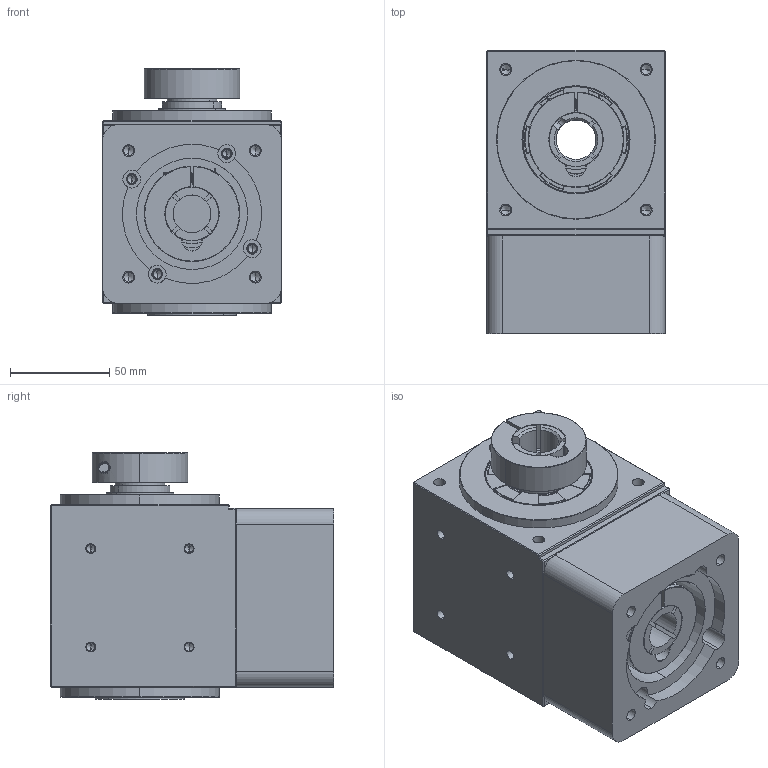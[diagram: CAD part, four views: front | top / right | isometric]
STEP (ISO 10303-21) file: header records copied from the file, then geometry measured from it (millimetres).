
FILE_DESCRIPTION (( 'STEP AP203' ), '1' );
FILE_NAME ('RH90-5(19-70-90-M6).STEP', '2022-03-11T16:17:37', ( '' ), ( '' ), 'SwSTEP 2.0', 'SolidWorks 2016', '' );
FILE_SCHEMA (( 'CONFIG_CONTROL_DESIGN' ));
Length unit declared in the file: millimetre
Products named in the file (8): R90-45x75x7; R90-5(70-90-M6); SN90-48x27x15-M6; R90-34x54x8; RH90-(20x20-6x20); R90; RH90-5(19-70-90-M6); R90-5-(19)
Assembly tree (8 placements, depth 2):
  RH90-5(19-70-90-M6)
    R90
    RH90-(20x20-6x20)
    R90-5-(19)
    R90-5(70-90-M6)
    R90-34x54x8
    R90-45x75x7
    SN90-48x27x15-M6  x2
Bounding box: 90 x 142.43 x 124 mm (x, y, z)
Volume: 907092.5 mm3; surface area: 186908.1 mm2
Topology: 10 solids, 10 shells, 843 faces, 2096 edges, 1277 vertices
Faces by surface type: cylinder 418, plane 166, cone 156, torus 52, bspline 51
Entity records: 37139 total; most frequent: CARTESIAN_POINT 21034, ORIENTED_EDGE 3214, DIRECTION 3193, EDGE_CURVE 1607, AXIS2_PLACEMENT_3D 1255, VERTEX_POINT 997, EDGE_LOOP 766, LINE 683
